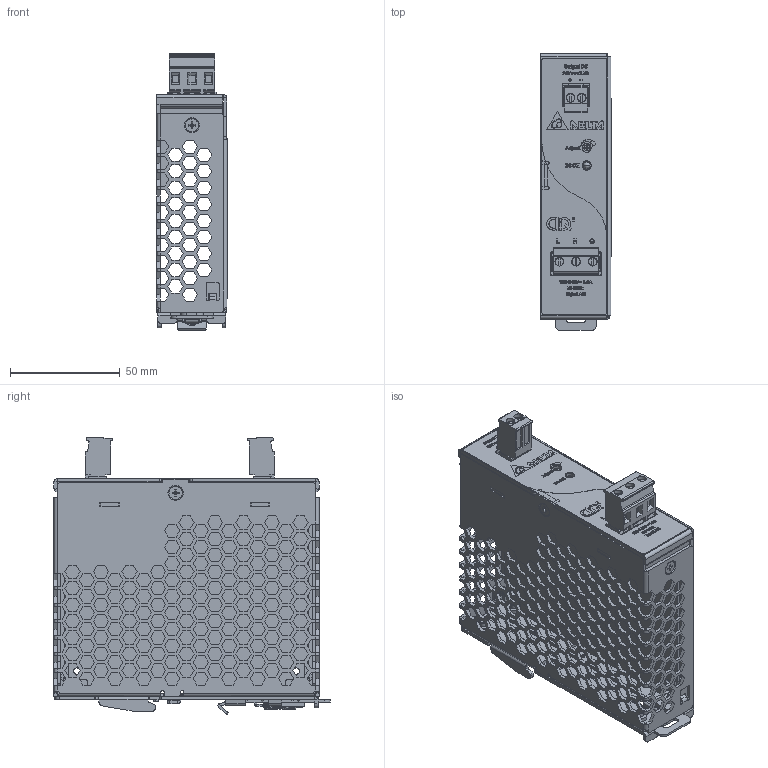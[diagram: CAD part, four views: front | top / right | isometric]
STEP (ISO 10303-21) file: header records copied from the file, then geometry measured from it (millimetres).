
FILE_DESCRIPTION((''),'2;1');
FILE_NAME('DRP024V060W1BA_ASM','2012-04-20T',('Manop.Pr'),(''),'PRO/ENGINEER BY PARAMETRIC TECHNOLOGY CORPORATION, 2010180','PRO/ENGINEER BY PARAMETRIC TECHNOLOGY CORPORATION, 2010180','');
FILE_SCHEMA(('CONFIG_CONTROL_DESIGN','SHAPE_APPEARANCE_LAYERS_GROUPS'));
Products named in the file (27): 330305910000; 330305910000_A_STUD; 330305910000_ASM; 330305900000; 326353310304; 3268209100; 3202315200; 331067900101; 346008810000; 346202620000; ASSY_LATCH_31X120_ASM; 2958041402_PWB_MAIN; 2958041402_ASM; 2968109703_DCT-1097; 2968109703_DCT-1097_ASM; 3071616046; 3050252046; 3070487646; 3051626946; ASSY_DCT-1097_ASM; 3122016400_LED-HOLDER; EE_LED350; ASSY_LED350_ASM; EE_VR-ADJ; ASSY_PWB_MAIN_ASM; 3103000601; DRP024V060W1BA_ASM
Assembly tree (35 placements, depth 5):
  DRP024V060W1BA_ASM
    330305910000_ASM
      330305910000
      330305910000_A_STUD  x4
    330305900000
    326353310304
    3268209100
    3202315200
    ASSY_LATCH_31X120_ASM
      331067900101
      346008810000
      346202620000
    ASSY_PWB_MAIN_ASM
      2958041402_ASM
        2958041402_PWB_MAIN
      ASSY_DCT-1097_ASM
        2968109703_DCT-1097_ASM
          2968109703_DCT-1097
        3071616046
        3050252046
        3070487646
        3051626946
      ASSY_LED350_ASM
        3122016400_LED-HOLDER
        EE_LED350
      EE_VR-ADJ
    3103000601  x7
Bounding box: 32.1 x 126 x 126.24 mm (x, y, z)
Volume: 80113.3 mm3; surface area: 128676.3 mm2
Topology: 29 solids, 29 shells, 4747 faces, 12765 edges, 8173 vertices
Faces by surface type: plane 3451, extrusion 584, cylinder 509, bspline 96, cone 89, torus 16, sphere 2
Entity records: 186314 total; most frequent: CARTESIAN_POINT 37095, ORIENTED_EDGE 24114, DIRECTION 20080, PRESENTATION_STYLE_ASSIGNMENT 12204, STYLED_ITEM 12077, CURVE_STYLE 12057, EDGE_CURVE 12057, VECTOR 10338
